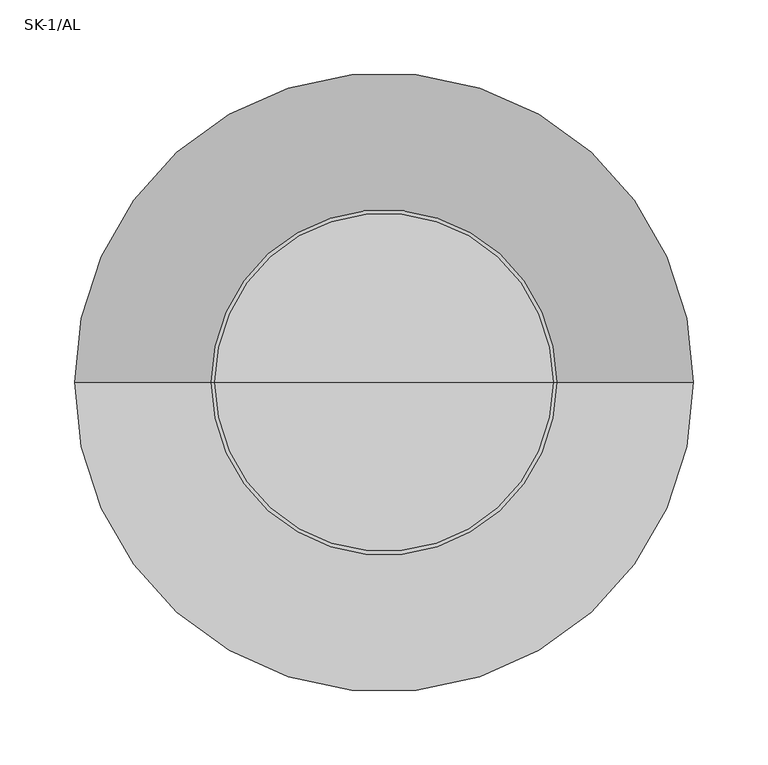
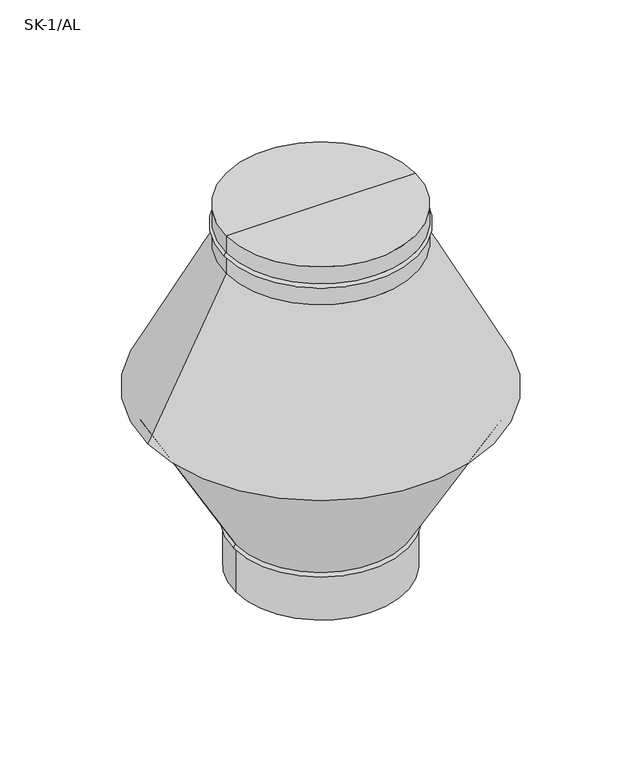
"""IFC4 building model written with IfcOpenShell, lengths in millimetres: air terminal geometry, NLRS_57_AIR_FB_Schachtkap SK-1_SMA : SK-1/AL."""

from ifc_helpers import new_model, si_unit, point, frame, origin, place, context, project, spatial, polyline, circle_curve, ellipse_curve, trimmed, source, transform, mapped, element, save
from ifc_brep_helpers import plane_surface, cylinder_surface, revolved_surface, advanced_brep


def sk_1_al_d2a7be2b(model_context):
    return source(origin(), model_context, "Body", "AdvancedBrep", [
        advanced_brep(
        [(100.0, 0.0, 0.0), (-100.0, 0.0, 0.0), (-102.0, 0.0, 0.0), (102.0, 0.0, 0.0), (100.0, 0.0, 60.0), (-100.0, 0.0, 60.0), (-102.0, 0.0, 55.0), (102.0, 0.0, 55.0), (-102.0, 0.0, 60.0), (102.0, 0.0, 60.0), (-197.1231652, 0.0, 224.7581551), (197.1231652, 0.0, 224.7581551), (195.1231652, 0.0, 224.7581551), (-195.1231652, 0.0, 224.7581551)],
        [
            (0, 1, circle_curve(frame((0.0, 0.0, 0.0), z_axis=(0.0, 0.0, 1.0), x_axis=(-1.0, 0.0, 0.0)), 100.0)),
            (1, 2),
            (2, 3, circle_curve(frame((0.0, 0.0, 0.0), z_axis=(0.0, 0.0, -1.0), x_axis=(-1.0, 0.0, 0.0)), 102.0)),
            (3, 0),
            (1, 0, circle_curve(frame((0.0, 0.0, 0.0), z_axis=(0.0, 0.0, 1.0), x_axis=(-1.0, 0.0, 0.0)), 100.0)),
            (3, 2, circle_curve(frame((0.0, 0.0, 0.0), z_axis=(0.0, 0.0, -1.0), x_axis=(-1.0, 0.0, 0.0)), 102.0)),
            (0, 4),
            (4, 5, circle_curve(frame((0.0, 0.0, 60.0), z_axis=(0.0, 0.0, 1.0), x_axis=(-1.0, 0.0, 0.0)), 100.0)),
            (5, 1),
            (5, 4, circle_curve(frame((0.0, 0.0, 60.0), z_axis=(0.0, 0.0, 1.0), x_axis=(-1.0, 0.0, 0.0)), 100.0)),
            (2, 6),
            (6, 7, circle_curve(frame((0.0, 0.0, 55.0), z_axis=(0.0, 0.0, -1.0), x_axis=(-1.0, 0.0, 0.0)), 102.0)),
            (7, 3),
            (7, 6, circle_curve(frame((0.0, 0.0, 55.0), z_axis=(0.0, 0.0, -1.0), x_axis=(-1.0, 0.0, 0.0)), 102.0)),
            (6, 8, circle_curve(frame((-102.0, 0.0, 57.5), z_axis=(0.0, 1.0, 0.0), x_axis=(1.0, 0.0, 0.0)), 2.5)),
            (8, 9, circle_curve(frame((0.0, 0.0, 60.0), z_axis=(0.0, 0.0, -1.0), x_axis=(-1.0, 0.0, 0.0)), 102.0)),
            (9, 7, circle_curve(frame((102.0, 0.0, 57.5), z_axis=(0.0, 1.0, 0.0), x_axis=(-1.0, 0.0, 0.0)), 2.5)),
            (9, 8, circle_curve(frame((0.0, 0.0, 60.0), z_axis=(0.0, 0.0, -1.0), x_axis=(-1.0, 0.0, 0.0)), 102.0)),
            (8, 10),
            (10, 11, circle_curve(frame((0.0, 0.0, 224.7581551), z_axis=(0.0, 0.0, -1.0), x_axis=(-1.0, 0.0, 0.0)), 197.1231652)),
            (11, 9),
            (11, 10, circle_curve(frame((0.0, 0.0, 224.7581551), z_axis=(0.0, 0.0, -1.0), x_axis=(-1.0, 0.0, 0.0)), 197.1231652)),
            (12, 13, circle_curve(frame((0.0, 0.0, 224.7581551), z_axis=(0.0, 0.0, 1.0), x_axis=(-1.0, 0.0, 0.0)), 195.1231652)),
            (13, 5),
            (4, 12),
            (13, 12, circle_curve(frame((0.0, 0.0, 224.7581551), z_axis=(0.0, 0.0, 1.0), x_axis=(-1.0, 0.0, 0.0)), 195.1231652)),
            (10, 13),
            (12, 11),
        ],
        [
            plane_surface(frame((0.0, 0.0, 0.0), z_axis=(0.0, 0.0, -1.0), x_axis=(-1.0, 0.0, 0.0))),
            revolved_surface(polyline([(-100.0, 0.0, 0.0), (-100.0, 0.0, 60.0)]), (0.0, 0.0, 2809.0581012), (0.0, 0.0, -1.0)),
            cylinder_surface(frame((0.0, 0.0, 2809.0581012), z_axis=(0.0, 0.0, -1.0), x_axis=(-1.0, 0.0, 0.0)), 102.0),
            revolved_surface(trimmed(ellipse_curve(frame((-102.0, 0.0, 57.5), z_axis=(0.0, -1.0, 0.0), x_axis=(1.0, 0.0, 0.0)), 2.5, 2.5), [point((-102.0, 0.0, 60.0))], [point((-102.0, 0.0, 55.0))], True, "CARTESIAN"), (0.0, 0.0, 2809.0581012), (0.0, 0.0, -1.0)),
            revolved_surface(polyline([(-197.1231652, 0.0, 224.7581551), (-102.0, 0.0, 60.0)]), (0.0, 0.0, 2809.0581012), (0.0, 0.0, -1.0)),
            revolved_surface(polyline([(-100.0, 0.0, 60.0), (-195.1231652, 0.0, 224.7581551)]), (0.0, 0.0, 2809.0581012), (0.0, 0.0, -1.0)),
            plane_surface(frame((0.0, 0.0, 224.7581551), z_axis=(0.0, 0.0, 1.0), x_axis=(-1.0, 0.0, 0.0))),
        ],
        [
            (0, [[1, 2, 3, 4]]),
            (0, [[-2, 5, -4, 6]]),
            (1, [[-1, 7, 8, 9]]),
            (1, [[-5, -9, 10, -7]]),
            (2, [[-3, 11, 12, 13]]),
            (2, [[-6, -13, 14, -11]]),
            (3, [[-12, 15, 16, 17]]),
            (3, [[-14, -17, 18, -15]]),
            (4, [[19, 20, 21, -16]]),
            (4, [[-19, -18, -21, 22]]),
            (5, [[23, 24, -8, 25]]),
            (5, [[-24, 26, -25, -10]]),
            (6, [[-20, 27, -23, 28]]),
            (6, [[-22, -28, -26, -27]]),
        ],
    ),
        advanced_brep(
        [(113.3, 0.0, 455.0), (-113.3, 0.0, 455.0), (0.0, 0.0, 455.0), (113.3, 0.0, 433.6581551), (-113.3, 0.0, 433.6581551), (113.3, 0.0, 428.6581551), (-113.3, 0.0, 428.6581551), (113.3, 0.0, 407.3163102), (-113.3, 0.0, 407.3163102), (111.3, 0.0, 407.3163102), (0.0, 0.0, 407.3163102), (-111.3, 0.0, 407.3163102), (205.4, 0.0, 224.7581551), (-205.4, 0.0, 224.7581551), (-207.4, 0.0, 224.7581551), (207.4, 0.0, 224.7581551)],
        [
            (0, 1, circle_curve(frame((0.0, 0.0, 455.0), z_axis=(0.0, 0.0, 1.0), x_axis=(-1.0, 0.0, 0.0)), 113.3)),
            (1, 2),
            (2, 0),
            (1, 0, circle_curve(frame((0.0, 0.0, 455.0), z_axis=(0.0, 0.0, 1.0), x_axis=(-1.0, 0.0, 0.0)), 113.3)),
            (0, 3),
            (3, 4, circle_curve(frame((0.0, 0.0, 433.6581551), z_axis=(0.0, 0.0, 1.0), x_axis=(-1.0, 0.0, 0.0)), 113.3)),
            (4, 1),
            (4, 3, circle_curve(frame((0.0, 0.0, 433.6581551), z_axis=(0.0, 0.0, 1.0), x_axis=(-1.0, 0.0, 0.0)), 113.3)),
            (3, 5, circle_curve(frame((113.3, 0.0, 431.1581551), z_axis=(0.0, 1.0, 0.0), x_axis=(-1.0, 0.0, 0.0)), 2.5)),
            (5, 6, circle_curve(frame((0.0, 0.0, 428.6581551), z_axis=(0.0, 0.0, 1.0), x_axis=(-1.0, 0.0, 0.0)), 113.3)),
            (6, 4, circle_curve(frame((-113.3, 0.0, 431.1581551), z_axis=(0.0, 1.0, 0.0), x_axis=(1.0, 0.0, 0.0)), 2.5)),
            (6, 5, circle_curve(frame((0.0, 0.0, 428.6581551), z_axis=(0.0, 0.0, 1.0), x_axis=(-1.0, 0.0, 0.0)), 113.3)),
            (5, 7),
            (7, 8, circle_curve(frame((0.0, 0.0, 407.3163102), z_axis=(0.0, 0.0, 1.0), x_axis=(-1.0, 0.0, 0.0)), 113.3)),
            (8, 6),
            (8, 7, circle_curve(frame((0.0, 0.0, 407.3163102), z_axis=(0.0, 0.0, 1.0), x_axis=(-1.0, 0.0, 0.0)), 113.3)),
            (9, 10),
            (10, 11),
            (11, 9, circle_curve(frame((0.0, 0.0, 407.3163102), z_axis=(0.0, 0.0, -1.0), x_axis=(-1.0, 0.0, 0.0)), 111.3)),
            (9, 11, circle_curve(frame((0.0, 0.0, 407.3163102), z_axis=(0.0, 0.0, -1.0), x_axis=(-1.0, 0.0, 0.0)), 111.3)),
            (12, 13, circle_curve(frame((0.0, 0.0, 224.7581551), z_axis=(0.0, 0.0, 1.0), x_axis=(-1.0, 0.0, 0.0)), 205.4)),
            (13, 14),
            (14, 15, circle_curve(frame((0.0, 0.0, 224.7581551), z_axis=(0.0, 0.0, -1.0), x_axis=(-1.0, 0.0, 0.0)), 207.4)),
            (15, 12),
            (13, 12, circle_curve(frame((0.0, 0.0, 224.7581551), z_axis=(0.0, 0.0, 1.0), x_axis=(-1.0, 0.0, 0.0)), 205.4)),
            (15, 14, circle_curve(frame((0.0, 0.0, 224.7581551), z_axis=(0.0, 0.0, -1.0), x_axis=(-1.0, 0.0, 0.0)), 207.4)),
            (12, 9),
            (11, 13),
            (14, 8),
            (7, 15),
        ],
        [
            plane_surface(frame((0.0, 0.0, 455.0), z_axis=(0.0, 0.0, 1.0), x_axis=(-1.0, 0.0, 0.0))),
            cylinder_surface(frame((0.0, 0.0, 2609.0581012), z_axis=(0.0, 0.0, -1.0), x_axis=(-1.0, 0.0, 0.0)), 113.3),
            revolved_surface(trimmed(ellipse_curve(frame((-113.3, 0.0, 431.1581551), z_axis=(0.0, -1.0, 0.0), x_axis=(1.0, 0.0, 0.0)), 2.5, 2.5), [point((-113.3, 0.0, 433.6581551))], [point((-113.3, 0.0, 428.6581551))], True, "CARTESIAN"), (0.0, 0.0, 2609.0581012), (0.0, 0.0, -1.0)),
            plane_surface(frame((0.0, 0.0, 407.3163102), z_axis=(0.0, 0.0, -1.0), x_axis=(-1.0, 0.0, 0.0))),
            plane_surface(frame((0.0, 0.0, 224.7581551), z_axis=(0.0, 0.0, -1.0), x_axis=(-1.0, 0.0, 0.0))),
            revolved_surface(polyline([(-205.4, 0.0, 224.7581551), (-111.3, 0.0, 407.3163102)]), (0.0, 0.0, 2609.0581012), (0.0, 0.0, -1.0)),
            revolved_surface(polyline([(-113.3, 0.0, 407.3163102), (-207.4, 0.0, 224.7581551)]), (0.0, 0.0, 2609.0581012), (0.0, 0.0, -1.0)),
        ],
        [
            (0, [[1, 2, 3]]),
            (0, [[-2, 4, -3]]),
            (1, [[-1, 5, 6, 7]]),
            (1, [[-4, -7, 8, -5]]),
            (2, [[-6, 9, 10, 11]]),
            (2, [[-8, -11, 12, -9]]),
            (1, [[-10, 13, 14, 15]]),
            (1, [[-12, -15, 16, -13]]),
            (3, [[17, 18, 19]]),
            (3, [[-17, 20, -18]]),
            (4, [[21, 22, 23, 24]]),
            (4, [[-22, 25, -24, 26]]),
            (5, [[-21, 27, -19, 28]]),
            (5, [[-25, -28, -20, -27]]),
            (6, [[-23, 29, -14, 30]]),
            (6, [[-26, -30, -16, -29]]),
        ],
    ),
    ])


if __name__ == "__main__":
    model = new_model("IFC4")
    model_context = context("Model", 3, world=origin())
    ifc_project = project(units=[si_unit("LENGTHUNIT", "METRE", prefix="MILLI")], contexts=[model_context])
    site = spatial("IfcSite", under=ifc_project)
    building = spatial("IfcBuilding", under=site)
    placement = place(None, origin())
    sk_1_al_shape = sk_1_al_d2a7be2b(model_context)
    element("IfcAirTerminal", 1, ObjectType="NLRS_57_AIR_FB_Schachtkap SK-1_SMA : SK-1/AL", at=placement, inside=building, context=model_context, shape_type="MappedRepresentation", body=[
        mapped(sk_1_al_shape, transform((0.0, 0.0, 0.0), x_axis=(1.0, 0.0, 0.0), y_axis=(0.0, 1.0, 0.0), z_axis=(0.0, 0.0, 1.0))),
    ])
    save(model, "model.ifc")
